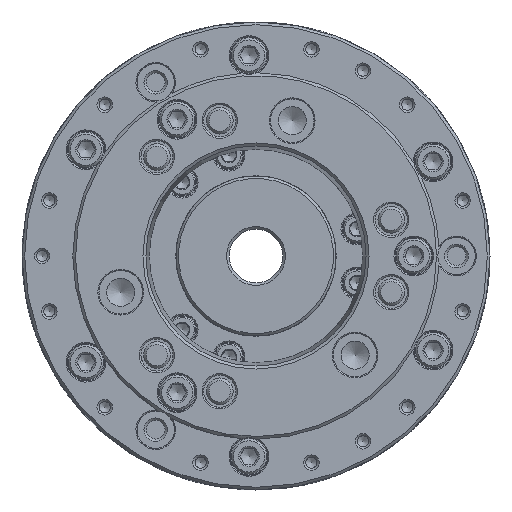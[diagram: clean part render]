
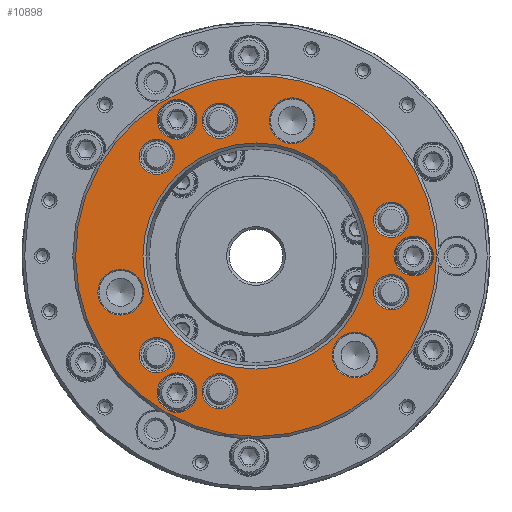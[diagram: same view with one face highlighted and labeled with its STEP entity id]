
A CAD part, left-side view. The second image highlights one B-rep face of the part: STEP entity #10898.
In plain terms, the highlighted planar face has unit normal (-1, 0, 0).
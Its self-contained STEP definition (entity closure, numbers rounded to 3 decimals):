
#1244 = DIRECTION ( 'NONE',  ( 0., 0., -1. ) ) ;
#1298 = EDGE_CURVE ( 'NONE', #15375, #15375, #49311, .T. ) ;
#4128 = ORIENTED_EDGE ( 'NONE', *, *, #8642, .T. ) ;
#4175 = EDGE_CURVE ( 'NONE', #40448, #40448, #80210, .T. ) ;
#5434 = DIRECTION ( 'NONE',  ( 0., -1., 0. ) ) ;
#5767 = DIRECTION ( 'NONE',  ( 0., -1., 0. ) ) ;
#7099 = FACE_BOUND ( 'NONE', #85319, .T. ) ;
#8366 = VERTEX_POINT ( 'NONE', #41024 ) ;
#8612 = AXIS2_PLACEMENT_3D ( 'NONE', #45685, #22138, #14656 ) ;
#8642 = EDGE_CURVE ( 'NONE', #78207, #78207, #36927, .T. ) ;
#10857 = DIRECTION ( 'NONE',  ( 1., 0., 0. ) ) ;
#10898 = ADVANCED_FACE ( 'NONE', ( #96565, #80497, #7099, #16252, #48847, #39228, #97634, #73493, #96045, #14666, #79945, #39765, #104642, #32787 ), #57429, .T. ) ;
#11009 = DIRECTION ( 'NONE',  ( -1., 0., 0. ) ) ;
#11689 = AXIS2_PLACEMENT_3D ( 'NONE', #86337, #27972, #5434 ) ;
#11980 = VERTEX_POINT ( 'NONE', #27493 ) ;
#13831 = VERTEX_POINT ( 'NONE', #38401 ) ;
#14575 = EDGE_CURVE ( 'NONE', #57246, #57246, #102544, .T. ) ;
#14656 = DIRECTION ( 'NONE',  ( 0., 0., -1. ) ) ;
#14666 = FACE_BOUND ( 'NONE', #101723, .T. ) ;
#15046 = CIRCLE ( 'NONE', #100590, 6.6 ) ;
#15292 = VERTEX_POINT ( 'NONE', #22239 ) ;
#15375 = VERTEX_POINT ( 'NONE', #32940 ) ;
#16252 = FACE_BOUND ( 'NONE', #71977, .T. ) ;
#16583 = AXIS2_PLACEMENT_3D ( 'NONE', #89738, #65075, #24384 ) ;
#17986 = ORIENTED_EDGE ( 'NONE', *, *, #1298, .F. ) ;
#18842 = CARTESIAN_POINT ( 'NONE',  ( -95., 29.5, 58.495 ) ) ;
#18923 = ORIENTED_EDGE ( 'NONE', *, *, #79175, .T. ) ;
#19198 = CARTESIAN_POINT ( 'NONE',  ( -95., 37.045, 37.045 ) ) ;
#19636 = CARTESIAN_POINT ( 'NONE',  ( -95., 13.56, -57.205 ) ) ;
#20638 = AXIS2_PLACEMENT_3D ( 'NONE', #27774, #94189, #45939 ) ;
#21367 = DIRECTION ( 'NONE',  ( -1., 0., 0. ) ) ;
#21844 = CARTESIAN_POINT ( 'NONE',  ( -95., -50.605, 6.96 ) ) ;
#21894 = ORIENTED_EDGE ( 'NONE', *, *, #14575, .T. ) ;
#22138 = DIRECTION ( 'NONE',  ( 1., 0., 0. ) ) ;
#22234 = ORIENTED_EDGE ( 'NONE', *, *, #26315, .T. ) ;
#22239 = CARTESIAN_POINT ( 'NONE',  ( -95., 37.045, -43.645 ) ) ;
#23198 = DIRECTION ( 'NONE',  ( 0., -1., 0. ) ) ;
#23263 = AXIS2_PLACEMENT_3D ( 'NONE', #94215, #21367, #5767 ) ;
#23334 = EDGE_CURVE ( 'NONE', #35227, #35227, #66651, .T. ) ;
#23625 = CARTESIAN_POINT ( 'NONE',  ( -95., 50.605, -13.56 ) ) ;
#24384 = DIRECTION ( 'NONE',  ( 0., 0., -1. ) ) ;
#25628 = CARTESIAN_POINT ( 'NONE',  ( -95., -59., 7.4 ) ) ;
#26315 = EDGE_CURVE ( 'NONE', #13831, #13831, #15046, .T. ) ;
#27325 = CIRCLE ( 'NONE', #34111, 6.6 ) ;
#27493 = CARTESIAN_POINT ( 'NONE',  ( -95., 42.065, -13.56 ) ) ;
#27774 = CARTESIAN_POINT ( 'NONE',  ( -95., 29.5, 51.095 ) ) ;
#27972 = DIRECTION ( 'NONE',  ( 1., 0., 0. ) ) ;
#28018 = CARTESIAN_POINT ( 'NONE',  ( -95., 29.5, -43.695 ) ) ;
#28421 = VERTEX_POINT ( 'NONE', #18842 ) ;
#28672 = AXIS2_PLACEMENT_3D ( 'NONE', #31200, #72969, #23198 ) ;
#28796 = AXIS2_PLACEMENT_3D ( 'NONE', #51697, #11009, #92960 ) ;
#30532 = EDGE_CURVE ( 'NONE', #63062, #63062, #75391, .T. ) ;
#31098 = DIRECTION ( 'NONE',  ( 1., 0., 0. ) ) ;
#31200 = CARTESIAN_POINT ( 'NONE',  ( -95., -67.5, 0. ) ) ;
#31209 = DIRECTION ( 'NONE',  ( 0., 0., -1. ) ) ;
#32787 = FACE_BOUND ( 'NONE', #89852, .T. ) ;
#32880 = EDGE_LOOP ( 'NONE', ( #4128 ) ) ;
#32940 = CARTESIAN_POINT ( 'NONE',  ( -95., -42.279, 0. ) ) ;
#33464 = CARTESIAN_POINT ( 'NONE',  ( -95., 37.045, 30.445 ) ) ;
#34111 = AXIS2_PLACEMENT_3D ( 'NONE', #43528, #10857, #1244 ) ;
#34848 = CIRCLE ( 'NONE', #53683, 7.4 ) ;
#35089 = ORIENTED_EDGE ( 'NONE', *, *, #30532, .T. ) ;
#35227 = VERTEX_POINT ( 'NONE', #25628 ) ;
#36927 = CIRCLE ( 'NONE', #23263, 67.5 ) ;
#37732 = EDGE_LOOP ( 'NONE', ( #21894 ) ) ;
#38401 = CARTESIAN_POINT ( 'NONE',  ( -95., 13.56, 44.005 ) ) ;
#38786 = EDGE_CURVE ( 'NONE', #8366, #8366, #42436, .T. ) ;
#39228 = FACE_BOUND ( 'NONE', #45823, .T. ) ;
#39765 = FACE_BOUND ( 'NONE', #54847, .T. ) ;
#40448 = VERTEX_POINT ( 'NONE', #33464 ) ;
#41024 = CARTESIAN_POINT ( 'NONE',  ( -95., -22.1, 50.605 ) ) ;
#42436 = CIRCLE ( 'NONE', #11689, 8.54 ) ;
#43501 = CARTESIAN_POINT ( 'NONE',  ( -95., 37.045, -37.045 ) ) ;
#43528 = CARTESIAN_POINT ( 'NONE',  ( -95., 13.56, -50.605 ) ) ;
#44077 = VERTEX_POINT ( 'NONE', #28018 ) ;
#44558 = DIRECTION ( 'NONE',  ( -1., 0., 0. ) ) ;
#45068 = DIRECTION ( 'NONE',  ( 0., -1., 0. ) ) ;
#45685 = CARTESIAN_POINT ( 'NONE',  ( -95., -50.605, 13.56 ) ) ;
#45823 = EDGE_LOOP ( 'NONE', ( #63989 ) ) ;
#45939 = DIRECTION ( 'NONE',  ( 0., 0., 1. ) ) ;
#48847 = FACE_BOUND ( 'NONE', #95551, .T. ) ;
#49311 = CIRCLE ( 'NONE', #71567, 42.279 ) ;
#49375 = AXIS2_PLACEMENT_3D ( 'NONE', #19198, #52334, #51287 ) ;
#51287 = DIRECTION ( 'NONE',  ( 0., 0., -1. ) ) ;
#51697 = CARTESIAN_POINT ( 'NONE',  ( -95., -59., 0. ) ) ;
#52334 = DIRECTION ( 'NONE',  ( 1., 0., 0. ) ) ;
#53683 = AXIS2_PLACEMENT_3D ( 'NONE', #82481, #73380, #58408 ) ;
#54232 = EDGE_CURVE ( 'NONE', #94044, #94044, #27325, .T. ) ;
#54847 = EDGE_LOOP ( 'NONE', ( #81170 ) ) ;
#55665 = DIRECTION ( 'NONE',  ( 1., 0., 0. ) ) ;
#57246 = VERTEX_POINT ( 'NONE', #79758 ) ;
#57429 = PLANE ( 'NONE',  #28672 ) ;
#57582 = CIRCLE ( 'NONE', #16583, 6.6 ) ;
#58408 = DIRECTION ( 'NONE',  ( 0., 0., 1. ) ) ;
#60653 = CARTESIAN_POINT ( 'NONE',  ( -95., 0., 0. ) ) ;
#61757 = CARTESIAN_POINT ( 'NONE',  ( -95., -50.605, -20.16 ) ) ;
#62518 = EDGE_CURVE ( 'NONE', #15292, #15292, #103197, .T. ) ;
#63062 = VERTEX_POINT ( 'NONE', #21844 ) ;
#63707 = DIRECTION ( 'NONE',  ( 0., -1., 0. ) ) ;
#63989 = ORIENTED_EDGE ( 'NONE', *, *, #62518, .T. ) ;
#64878 = AXIS2_PLACEMENT_3D ( 'NONE', #96914, #55665, #63707 ) ;
#65075 = DIRECTION ( 'NONE',  ( 1., 0., 0. ) ) ;
#66506 = ORIENTED_EDGE ( 'NONE', *, *, #38786, .T. ) ;
#66651 = CIRCLE ( 'NONE', #28796, 7.4 ) ;
#68192 = VERTEX_POINT ( 'NONE', #61757 ) ;
#68976 = AXIS2_PLACEMENT_3D ( 'NONE', #43501, #100841, #101374 ) ;
#70193 = CARTESIAN_POINT ( 'NONE',  ( -95., -67.5, 0. ) ) ;
#71567 = AXIS2_PLACEMENT_3D ( 'NONE', #60653, #44558, #45068 ) ;
#71977 = EDGE_LOOP ( 'NONE', ( #89376 ) ) ;
#72969 = DIRECTION ( 'NONE',  ( -1., 0., 0. ) ) ;
#73380 = DIRECTION ( 'NONE',  ( -1., 0., 0. ) ) ;
#73493 = FACE_BOUND ( 'NONE', #87193, .T. ) ;
#74772 = EDGE_CURVE ( 'NONE', #68192, #68192, #57582, .T. ) ;
#75391 = CIRCLE ( 'NONE', #8612, 6.6 ) ;
#77727 = EDGE_LOOP ( 'NONE', ( #66506 ) ) ;
#78207 = VERTEX_POINT ( 'NONE', #70193 ) ;
#79175 = EDGE_CURVE ( 'NONE', #11980, #11980, #103356, .T. ) ;
#79367 = EDGE_CURVE ( 'NONE', #44077, #44077, #34848, .T. ) ;
#79758 = CARTESIAN_POINT ( 'NONE',  ( -95., -45.585, -37.045 ) ) ;
#79945 = FACE_BOUND ( 'NONE', #105639, .T. ) ;
#80210 = CIRCLE ( 'NONE', #49375, 6.6 ) ;
#80497 = FACE_BOUND ( 'NONE', #37732, .T. ) ;
#81170 = ORIENTED_EDGE ( 'NONE', *, *, #74772, .T. ) ;
#82481 = CARTESIAN_POINT ( 'NONE',  ( -95., 29.5, -51.095 ) ) ;
#85319 = EDGE_LOOP ( 'NONE', ( #100836 ) ) ;
#85839 = ORIENTED_EDGE ( 'NONE', *, *, #54232, .T. ) ;
#86337 = CARTESIAN_POINT ( 'NONE',  ( -95., -13.56, 50.605 ) ) ;
#87193 = EDGE_LOOP ( 'NONE', ( #22234 ) ) ;
#88018 = CARTESIAN_POINT ( 'NONE',  ( -95., 13.56, 50.605 ) ) ;
#89376 = ORIENTED_EDGE ( 'NONE', *, *, #100131, .F. ) ;
#89738 = CARTESIAN_POINT ( 'NONE',  ( -95., -50.605, -13.56 ) ) ;
#89852 = EDGE_LOOP ( 'NONE', ( #17986 ) ) ;
#90316 = EDGE_LOOP ( 'NONE', ( #18923 ) ) ;
#91124 = ORIENTED_EDGE ( 'NONE', *, *, #4175, .T. ) ;
#91323 = AXIS2_PLACEMENT_3D ( 'NONE', #23625, #31098, #105593 ) ;
#92511 = CIRCLE ( 'NONE', #20638, 7.4 ) ;
#92960 = DIRECTION ( 'NONE',  ( 0., 0., 1. ) ) ;
#94044 = VERTEX_POINT ( 'NONE', #19636 ) ;
#94189 = DIRECTION ( 'NONE',  ( -1., 0., 0. ) ) ;
#94215 = CARTESIAN_POINT ( 'NONE',  ( -95., 0., 0. ) ) ;
#95551 = EDGE_LOOP ( 'NONE', ( #85839 ) ) ;
#96045 = FACE_BOUND ( 'NONE', #90316, .T. ) ;
#96565 = FACE_BOUND ( 'NONE', #77727, .T. ) ;
#96914 = CARTESIAN_POINT ( 'NONE',  ( -95., -37.045, -37.045 ) ) ;
#97634 = FACE_BOUND ( 'NONE', #99470, .T. ) ;
#99470 = EDGE_LOOP ( 'NONE', ( #91124 ) ) ;
#100131 = EDGE_CURVE ( 'NONE', #28421, #28421, #92511, .T. ) ;
#100590 = AXIS2_PLACEMENT_3D ( 'NONE', #88018, #104650, #31209 ) ;
#100836 = ORIENTED_EDGE ( 'NONE', *, *, #79367, .F. ) ;
#100841 = DIRECTION ( 'NONE',  ( 1., 0., 0. ) ) ;
#101374 = DIRECTION ( 'NONE',  ( 0., 0., -1. ) ) ;
#101723 = EDGE_LOOP ( 'NONE', ( #104202 ) ) ;
#102544 = CIRCLE ( 'NONE', #64878, 8.54 ) ;
#103197 = CIRCLE ( 'NONE', #68976, 6.6 ) ;
#103356 = CIRCLE ( 'NONE', #91323, 8.54 ) ;
#104202 = ORIENTED_EDGE ( 'NONE', *, *, #23334, .F. ) ;
#104642 = FACE_OUTER_BOUND ( 'NONE', #32880, .T. ) ;
#104650 = DIRECTION ( 'NONE',  ( 1., 0., 0. ) ) ;
#105593 = DIRECTION ( 'NONE',  ( 0., -1., 0. ) ) ;
#105639 = EDGE_LOOP ( 'NONE', ( #35089 ) ) ;
